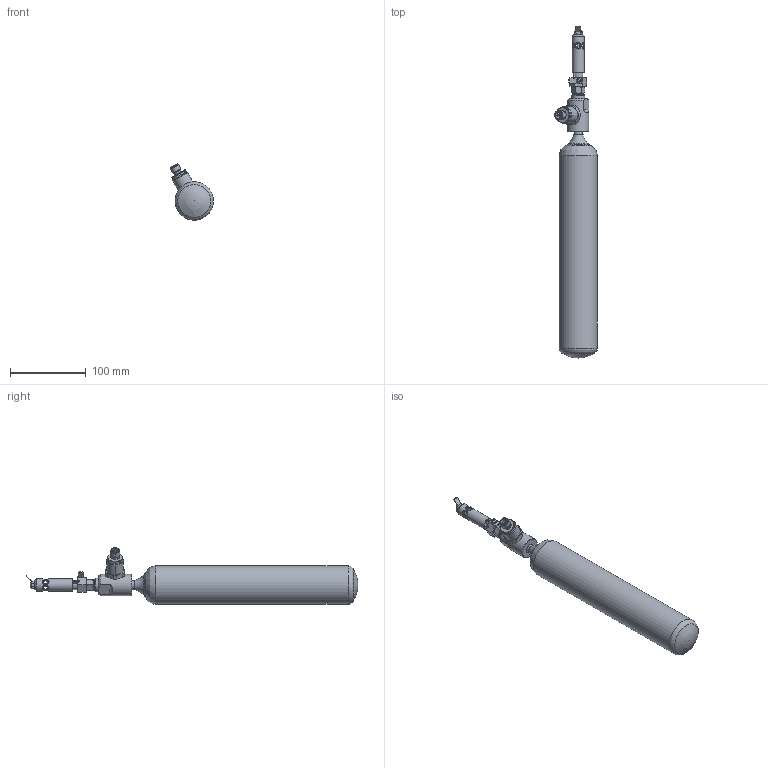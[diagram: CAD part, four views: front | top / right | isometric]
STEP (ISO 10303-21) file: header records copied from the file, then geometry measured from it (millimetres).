
FILE_DESCRIPTION(/* description */ (''),/* implementation_level */ '2;1');
FILE_NAME(/* name */ '40-057-20-32-14 - S-AMFE & R-AMFE - cylinder size 4 and pressure sensor (M12 plug).stp',/* time_stamp */ '2025-03-26T16:22:10+01:00',/* author */ ('ASc'),/* organization */ (''),/* preprocessor_version */ 'ST-DEVELOPER v19.2',/* originating_system */ 'Autodesk Inventor 2023',/* authorisation */ '');
FILE_SCHEMA (('AUTOMOTIVE_DESIGN { 1 0 10303 214 3 1 1 }'));
Length unit declared in the file: millimetre
Products named in the file (1): 40-057-20-32-14_Vereinfachen_1
Bounding box: 56.82 x 438.7 x 74.57 mm (x, y, z)
Volume: 614037.5 mm3; surface area: 62537.3 mm2
Topology: 1 solids, 1 shells, 375 faces, 976 edges, 613 vertices
Faces by surface type: bspline 167, plane 142, cylinder 31, cone 30, torus 5
Full cylindrical faces by diameter (mm): 2.9 x1, 5.7 x2, 6.5 x6, 9.4 x1, 11 x1, 11.9 x1, 12 x1, 12.5 x1, 15 x1, 16 x1, 17.5 x1, 28 x1, 50.8 x1
Entity records: 19828 total; most frequent: CARTESIAN_POINT 10967, ORIENTED_EDGE 1948, DIRECTION 1400, EDGE_CURVE 974, VERTEX_POINT 613, AXIS2_PLACEMENT_3D 504, EDGE_LOOP 405, LINE 392
